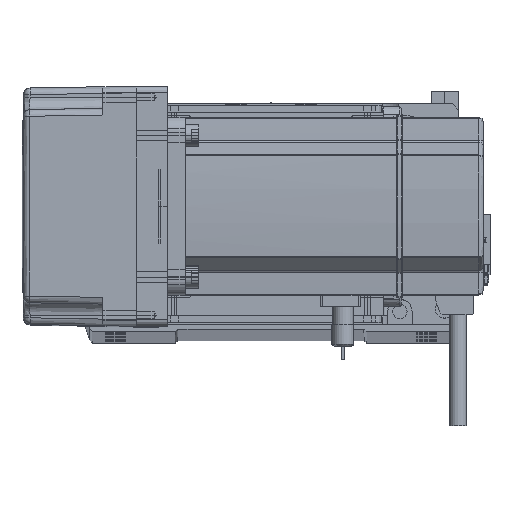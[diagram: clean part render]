
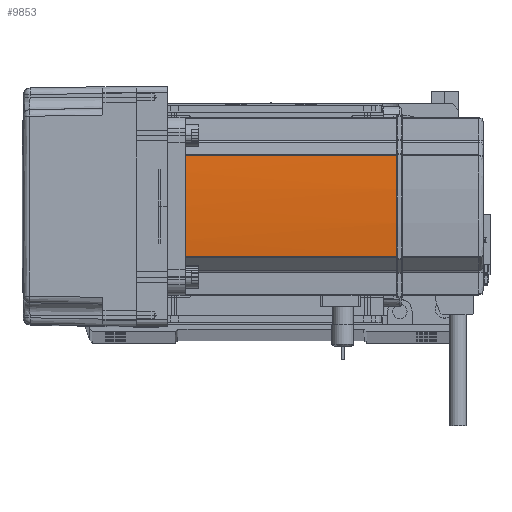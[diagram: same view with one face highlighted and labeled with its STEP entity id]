
A CAD part, top view. The second image highlights one B-rep face of the part: STEP entity #9853.
In plain terms, the highlighted cylindrical face has radius 270 mm (diameter 540 mm), a partial arc.
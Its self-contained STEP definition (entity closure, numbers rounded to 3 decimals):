
#513 = DIRECTION ( 'NONE',  ( 0., 0., -1. ) ) ;
#1040 = CARTESIAN_POINT ( 'NONE',  ( 40., -0.127, 134. ) ) ;
#1253 = ORIENTED_EDGE ( 'NONE', *, *, #63664, .T. ) ;
#1911 = VERTEX_POINT ( 'NONE', #26527 ) ;
#3714 = DIRECTION ( 'NONE',  ( 0., 0., -1. ) ) ;
#4221 = EDGE_LOOP ( 'NONE', ( #44992, #39396, #1253, #51383, #52274, #32422 ) ) ;
#5134 = VERTEX_POINT ( 'NONE', #16229 ) ;
#6177 = CARTESIAN_POINT ( 'NONE',  ( 40., 0.042, 134. ) ) ;
#9853 = ADVANCED_FACE ( 'NONE', ( #14954 ), #34088, .T. ) ;
#12922 = CARTESIAN_POINT ( 'NONE',  ( 39.042, 22.724, 58. ) ) ;
#14367 = CARTESIAN_POINT ( 'NONE',  ( -230., 0., 134. ) ) ;
#14782 = DIRECTION ( 'NONE',  ( -1., 0., 0. ) ) ;
#14954 = FACE_OUTER_BOUND ( 'NONE', #4221, .T. ) ;
#16229 = CARTESIAN_POINT ( 'NONE',  ( 39.042, 22.724, 39. ) ) ;
#17974 = EDGE_CURVE ( 'NONE', #61494, #1911, #18310, .T. ) ;
#18310 = CIRCLE ( 'NONE', #44607, 270. ) ;
#18468 = DIRECTION ( 'NONE',  ( -1., 0., 0. ) ) ;
#21075 = CARTESIAN_POINT ( 'NONE',  ( 39.042, 22.724, 134. ) ) ;
#21505 = CARTESIAN_POINT ( 'NONE',  ( 40., 0.127, 134. ) ) ;
#22569 = VERTEX_POINT ( 'NONE', #22624 ) ;
#22624 = CARTESIAN_POINT ( 'NONE',  ( 39.042, -22.724, 39. ) ) ;
#23474 = CIRCLE ( 'NONE', #62705, 270. ) ;
#24208 = CARTESIAN_POINT ( 'NONE',  ( 40., -0.127, 134. ) ) ;
#24771 = CARTESIAN_POINT ( 'NONE',  ( -230., 0., 134. ) ) ;
#24987 = DIRECTION ( 'NONE',  ( -1., 0., 0. ) ) ;
#26527 = CARTESIAN_POINT ( 'NONE',  ( 40., 0.127, 134. ) ) ;
#28233 = DIRECTION ( 'NONE',  ( 0., 0., 1. ) ) ;
#28589 = EDGE_CURVE ( 'NONE', #51223, #1911, #61698, .T. ) ;
#28828 = CARTESIAN_POINT ( 'NONE',  ( 39.042, -22.724, 58. ) ) ;
#29223 = CARTESIAN_POINT ( 'NONE',  ( 39.042, -22.724, 134. ) ) ;
#31536 = CARTESIAN_POINT ( 'NONE',  ( 40., -0.042, 134. ) ) ;
#32422 = ORIENTED_EDGE ( 'NONE', *, *, #42730, .T. ) ;
#34088 = CYLINDRICAL_SURFACE ( 'NONE', #50504, 270. ) ;
#34658 = AXIS2_PLACEMENT_3D ( 'NONE', #14367, #45185, #14782 ) ;
#39396 = ORIENTED_EDGE ( 'NONE', *, *, #51921, .F. ) ;
#42730 = EDGE_CURVE ( 'NONE', #51223, #58665, #48550, .T. ) ;
#43758 = DIRECTION ( 'NONE',  ( 0., 0., -1. ) ) ;
#44607 = AXIS2_PLACEMENT_3D ( 'NONE', #24771, #45204, #24987 ) ;
#44992 = ORIENTED_EDGE ( 'NONE', *, *, #54107, .T. ) ;
#45185 = DIRECTION ( 'NONE',  ( 0., 0., -1. ) ) ;
#45204 = DIRECTION ( 'NONE',  ( 0., 0., -1. ) ) ;
#48550 = CIRCLE ( 'NONE', #34658, 270. ) ;
#50504 = AXIS2_PLACEMENT_3D ( 'NONE', #63337, #43758, #18468 ) ;
#50977 = CARTESIAN_POINT ( 'NONE',  ( -230., 0., 39. ) ) ;
#51223 = VERTEX_POINT ( 'NONE', #24208 ) ;
#51383 = ORIENTED_EDGE ( 'NONE', *, *, #17974, .T. ) ;
#51921 = EDGE_CURVE ( 'NONE', #5134, #22569, #23474, .T. ) ;
#52274 = ORIENTED_EDGE ( 'NONE', *, *, #28589, .F. ) ;
#53315 = VECTOR ( 'NONE', #3714, 1000. ) ;
#54107 = EDGE_CURVE ( 'NONE', #58665, #22569, #64401, .T. ) ;
#56113 = VECTOR ( 'NONE', #28233, 1000. ) ;
#58665 = VERTEX_POINT ( 'NONE', #29223 ) ;
#60992 = DIRECTION ( 'NONE',  ( -1., 0., 0. ) ) ;
#61494 = VERTEX_POINT ( 'NONE', #21075 ) ;
#61683 = LINE ( 'NONE', #12922, #56113 ) ;
#61698 = B_SPLINE_CURVE_WITH_KNOTS ( 'NONE', 3,
 ( #1040, #31536, #6177, #21505 ),
 .UNSPECIFIED., .F., .F.,
 ( 4, 4 ),
 ( 0., 1. ),
 .UNSPECIFIED. ) ;
#62705 = AXIS2_PLACEMENT_3D ( 'NONE', #50977, #513, #60992 ) ;
#63337 = CARTESIAN_POINT ( 'NONE',  ( -230., 0., 58. ) ) ;
#63664 = EDGE_CURVE ( 'NONE', #5134, #61494, #61683, .T. ) ;
#64401 = LINE ( 'NONE', #28828, #53315 ) ;
